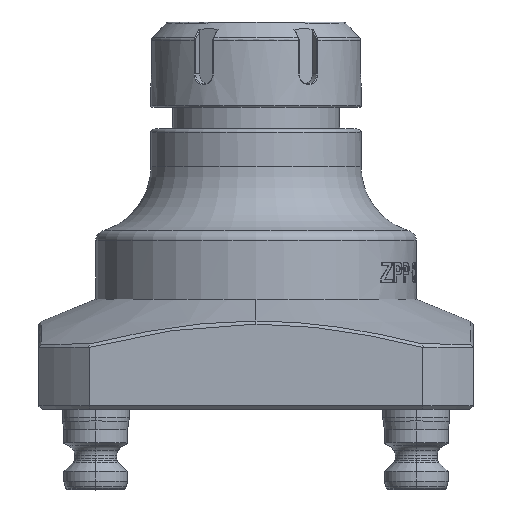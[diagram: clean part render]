
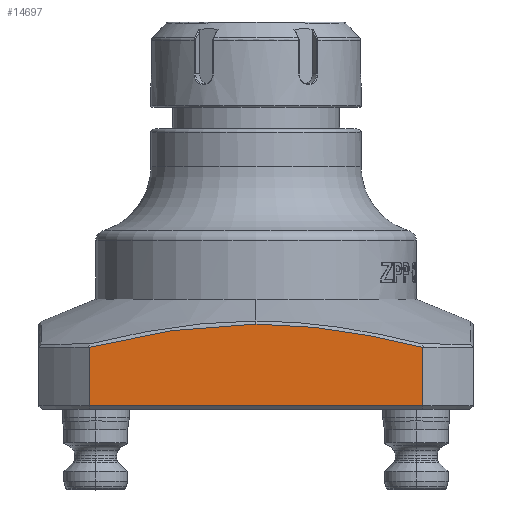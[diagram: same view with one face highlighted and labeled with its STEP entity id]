
A CAD part, top view. The second image highlights one B-rep face of the part: STEP entity #14697.
In plain terms, the highlighted planar face has unit normal (0, 0, 1).
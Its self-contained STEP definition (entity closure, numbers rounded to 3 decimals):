
#12212=CARTESIAN_POINT('',(-49.99,-14.496,
65.));
#12322=CARTESIAN_POINT('',(49.99,-32.,
65.));
#12945=CARTESIAN_POINT('',(0.,-7.543,
65.));
#12946=CARTESIAN_POINT('',(2.931,-7.543,
65.));
#12947=CARTESIAN_POINT('',(8.737,-7.698,
65.));
#12948=CARTESIAN_POINT('',(17.864,-8.465,
65.));
#12949=CARTESIAN_POINT('',(25.659,-9.487,
65.));
#12950=CARTESIAN_POINT('',(34.524,-11.009,
65.));
#12951=CARTESIAN_POINT('',(42.749,-12.745,
65.));
#12952=CARTESIAN_POINT('',(47.66,-13.917,
65.));
#12953=CARTESIAN_POINT('',(49.99,-14.496,
65.));
#12955=DIRECTION('',(0.,-1.,0.));
#12956=VECTOR('',#12955,17.504);
#12957=CARTESIAN_POINT('',(49.99,-14.496,
65.));
#12958=LINE('',#12957,#12956);
#12959=DIRECTION('',(-1.,0.,0.));
#12960=VECTOR('',#12959,99.98);
#12961=CARTESIAN_POINT('',(49.99,-32.,
65.));
#12962=LINE('',#12961,#12960);
#12963=DIRECTION('',(0.,1.,0.));
#12964=VECTOR('',#12963,17.504);
#12965=CARTESIAN_POINT('',(-49.99,-32.,
65.));
#12966=LINE('',#12965,#12964);
#12967=CARTESIAN_POINT('',(-49.99,-14.496,
65.));
#12968=CARTESIAN_POINT('',(-48.412,-14.104,
65.));
#12969=CARTESIAN_POINT('',(-45.164,-13.318,
65.));
#12970=CARTESIAN_POINT('',(-39.985,-12.159,
65.));
#12971=CARTESIAN_POINT('',(-34.568,-11.044,
65.));
#12972=CARTESIAN_POINT('',(-27.888,-9.864,
65.));
#12973=CARTESIAN_POINT('',(-22.894,-9.118,
65.));
#12974=CARTESIAN_POINT('',(-16.498,-8.357,
65.));
#12975=CARTESIAN_POINT('',(-10.691,-7.865,
65.));
#12976=CARTESIAN_POINT('',(-5.406,-7.609,
65.));
#12977=CARTESIAN_POINT('',(-1.793,-7.543,
65.));
#12978=CARTESIAN_POINT('',(0.,-7.543,
65.));
#13103=VERTEX_POINT('',#12212);
#13104=CARTESIAN_POINT('',(0.,-7.543,
65.));
#13105=VERTEX_POINT('',#13104);
#13108=CARTESIAN_POINT('',(-49.99,-32.,
65.));
#13109=VERTEX_POINT('',#13108);
#13136=VERTEX_POINT('',#12322);
#13290=VERTEX_POINT('',#12953);
#14683=CARTESIAN_POINT('',(-65.,-33.,65.));
#14684=DIRECTION('',(0.,0.,-1.));
#14685=DIRECTION('',(1.,0.,0.));
#14686=AXIS2_PLACEMENT_3D('',#14683,#14684,#14685);
#14687=PLANE('',#14686);
#14689=ORIENTED_EDGE('',*,*,#14688,.T.);
#14691=ORIENTED_EDGE('',*,*,#14690,.T.);
#14692=ORIENTED_EDGE('',*,*,#13901,.T.);
#14693=ORIENTED_EDGE('',*,*,#13441,.T.);
#14694=ORIENTED_EDGE('',*,*,#13426,.T.);
#14695=EDGE_LOOP('',(#14689,#14691,#14692,#14693,#14694));
#14696=FACE_OUTER_BOUND('',#14695,.F.);
#14697=ADVANCED_FACE('',(#14696),#14687,.F.);
#12954=B_SPLINE_CURVE_WITH_KNOTS('',3,(#12945,#12946,#12947,#12948,#12949,
#12950,#12951,#12952,#12953),.UNSPECIFIED.,.F.,.F.,(4,1,1,1,1,1,4),(0.,
0.167,0.333,0.5,0.667,0.833,
1.),.UNSPECIFIED.);
#12979=B_SPLINE_CURVE_WITH_KNOTS('',3,(#12967,#12968,#12969,#12970,#12971,
#12972,#12973,#12974,#12975,#12976,#12977,#12978),.UNSPECIFIED.,.F.,.F.,(4,1,1,
1,1,1,1,1,1,4),(0.,0.111,0.222,0.333,
0.444,0.556,0.667,0.778,
0.889,1.),.UNSPECIFIED.);
#13426=EDGE_CURVE('',#13103,#13105,#12979,.T.);
#13441=EDGE_CURVE('',#13109,#13103,#12966,.T.);
#13901=EDGE_CURVE('',#13136,#13109,#12962,.T.);
#14688=EDGE_CURVE('',#13105,#13290,#12954,.T.);
#14690=EDGE_CURVE('',#13290,#13136,#12958,.T.);
